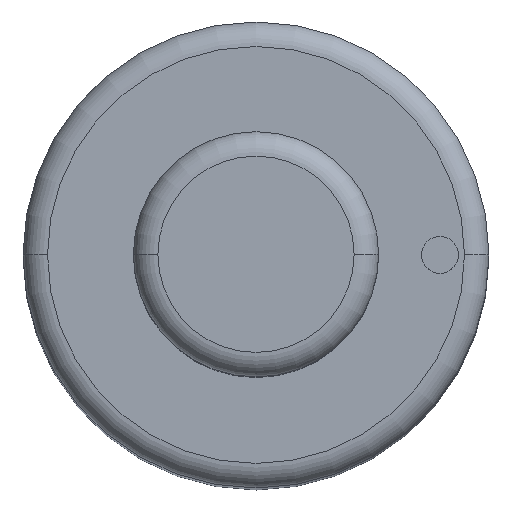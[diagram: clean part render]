
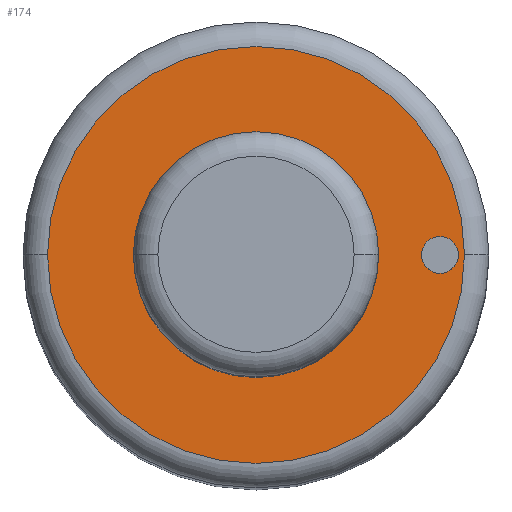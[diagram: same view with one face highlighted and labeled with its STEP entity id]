
A CAD part, top view. The second image highlights one B-rep face of the part: STEP entity #174.
In plain terms, the highlighted planar face has unit normal (0, 0, 1).
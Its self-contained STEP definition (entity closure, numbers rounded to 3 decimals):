
#99=FACE_BOUND('',#225,.T.);
#100=FACE_BOUND('',#226,.T.);
#101=FACE_BOUND('',#227,.T.);
#174=ADVANCED_FACE('',(#99,#100,#101),#180,.T.);
#180=PLANE('',#475);
#225=EDGE_LOOP('',(#307,#308));
#226=EDGE_LOOP('',(#309,#310));
#227=EDGE_LOOP('',(#311,#312));
#307=ORIENTED_EDGE('',*,*,#367,.F.);
#308=ORIENTED_EDGE('',*,*,#368,.F.);
#309=ORIENTED_EDGE('',*,*,#390,.F.);
#310=ORIENTED_EDGE('',*,*,#391,.F.);
#311=ORIENTED_EDGE('',*,*,#363,.T.);
#312=ORIENTED_EDGE('',*,*,#361,.T.);
#329=VERTEX_POINT('',#630);
#330=VERTEX_POINT('',#632);
#331=VERTEX_POINT('',#638);
#334=VERTEX_POINT('',#643);
#346=VERTEX_POINT('',#692);
#347=VERTEX_POINT('',#693);
#361=EDGE_CURVE('',#330,#329,#404,.T.);
#363=EDGE_CURVE('',#329,#330,#405,.T.);
#367=EDGE_CURVE('',#334,#331,#409,.T.);
#368=EDGE_CURVE('',#331,#334,#410,.T.);
#390=EDGE_CURVE('',#346,#347,#422,.T.);
#391=EDGE_CURVE('',#347,#346,#423,.T.);
#404=CIRCLE('',#440,5.);
#405=CIRCLE('',#442,5.);
#409=CIRCLE('',#447,8.5);
#410=CIRCLE('',#449,8.5);
#422=CIRCLE('',#473,0.75);
#423=CIRCLE('',#474,0.75);
#440=AXIS2_PLACEMENT_3D('',#631,#512,#513);
#442=AXIS2_PLACEMENT_3D('',#635,#517,#518);
#447=AXIS2_PLACEMENT_3D('',#644,#527,#528);
#449=AXIS2_PLACEMENT_3D('',#646,#531,#532);
#473=AXIS2_PLACEMENT_3D('',#691,#589,#590);
#474=AXIS2_PLACEMENT_3D('',#694,#591,#592);
#475=AXIS2_PLACEMENT_3D('',#695,#593,#594);
#512=DIRECTION('',(0.,0.,-1.));
#513=DIRECTION('',(0.,1.,0.));
#517=DIRECTION('',(0.,0.,-1.));
#518=DIRECTION('',(0.,-1.,0.));
#527=DIRECTION('',(0.,0.,-1.));
#528=DIRECTION('',(0.,1.,0.));
#531=DIRECTION('',(0.,0.,-1.));
#532=DIRECTION('',(0.,-1.,0.));
#589=DIRECTION('',(0.,0.,1.));
#590=DIRECTION('',(0.,1.,0.));
#591=DIRECTION('',(0.,0.,1.));
#592=DIRECTION('',(0.,-1.,0.));
#593=DIRECTION('',(0.,0.,1.));
#594=DIRECTION('',(0.,-1.,0.));
#630=CARTESIAN_POINT('',(-5.,0.,49.));
#631=CARTESIAN_POINT('',(0.,0.,49.));
#632=CARTESIAN_POINT('',(5.,0.,49.));
#635=CARTESIAN_POINT('',(0.,0.,49.));
#638=CARTESIAN_POINT('',(-8.5,0.,49.));
#643=CARTESIAN_POINT('',(8.5,0.,49.));
#644=CARTESIAN_POINT('',(0.,0.,49.));
#646=CARTESIAN_POINT('',(0.,0.,49.));
#691=CARTESIAN_POINT('',(7.5,0.,49.));
#692=CARTESIAN_POINT('',(6.75,0.,49.));
#693=CARTESIAN_POINT('',(8.25,0.,49.));
#694=CARTESIAN_POINT('',(7.5,0.,49.));
#695=CARTESIAN_POINT('',(0.,0.,49.));
